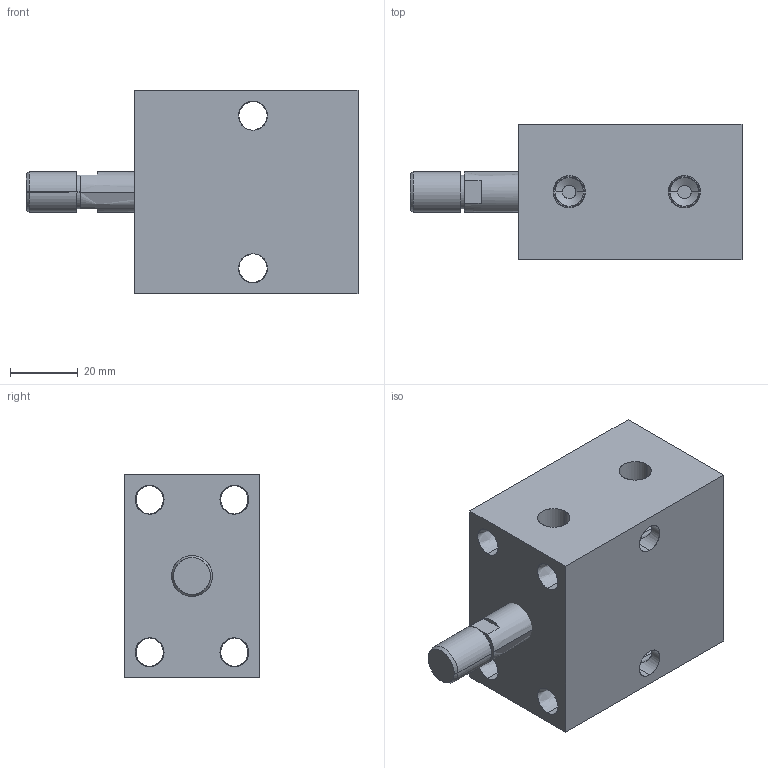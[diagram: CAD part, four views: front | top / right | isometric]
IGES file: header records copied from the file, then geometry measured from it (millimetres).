
Start section: SolidWorks IGES file using analytic representation for surfaces
Global section: file name: C:\Documents and Settings\rajib\Desktop\Rajib\BLOCK CYLINDER HYDRAULIC\0101-0106\0101.IGS; native system: SolidWorks 2007; preprocessor: SolidWorks 2007; author: rajib; date: 110121.092905; units: millimetre
Bounding box: 98 x 40 x 60 mm (x, y, z)
Surface area: 28328.1 mm2 (no closed solid volume)
Topology: 0 solids, 0 shells, 74 faces, 1690 edges, 1690 vertices
Faces by surface type: revolution 54, bspline 20
